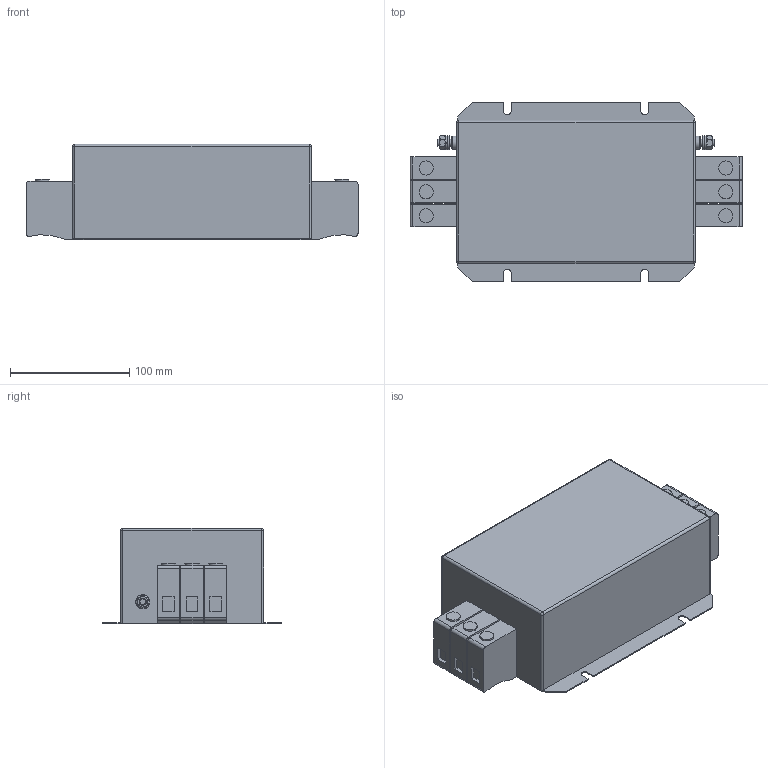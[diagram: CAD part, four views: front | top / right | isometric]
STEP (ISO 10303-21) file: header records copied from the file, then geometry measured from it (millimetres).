
FILE_DESCRIPTION(/* description */ (''),/* implementation_level */ '2;1');
FILE_NAME(/* name */ 'C:\Users\Sandra.Bader\OneDrive - Schaffner EMV AG\Desktop\FN351-64-34.stp',/* time_stamp */ '2022-12-13T15:27:13+01:00',/* author */ ('sandra.bader'),/* organization */ (''),/* preprocessor_version */ 'ST-DEVELOPER v18.1',/* originating_system */ 'Autodesk Inventor 2020',/* authorisation */ '');
FILE_SCHEMA (('AUTOMOTIVE_DESIGN { 1 0 10303 214 3 1 1 }'));
Length unit declared in the file: millimetre
Products named in the file (3): 1082050_IAM_000; FN351-64-33; 242341
Assembly tree (7 placements, depth 2):
  1082050_IAM_000
    FN351-64-33
    242341  x6
Bounding box: 278 x 150 x 80 mm (x, y, z)
Volume: 2115285.4 mm3; surface area: 158751.9 mm2
Topology: 7 solids, 10 shells, 245 faces, 579 edges, 382 vertices
Faces by surface type: plane 156, cylinder 73, cone 12, sphere 4
Full cylindrical faces by diameter (mm): 0.8 x6, 5.459 x2, 6 x6, 6.4 x2, 8.7 x2, 8.8 x3, 11.05 x2, 11.8 x6, 12 x2
Entity records: 4818 total; most frequent: DIRECTION 854, CARTESIAN_POINT 849, ORIENTED_EDGE 768, EDGE_CURVE 384, AXIS2_PLACEMENT_3D 329, VERTEX_POINT 252, LINE 196, VECTOR 196
